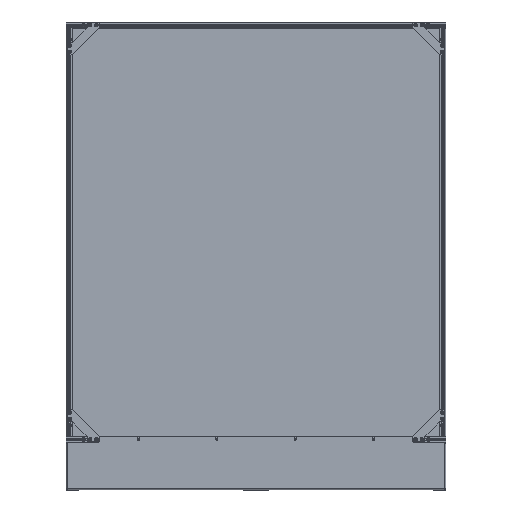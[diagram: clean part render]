
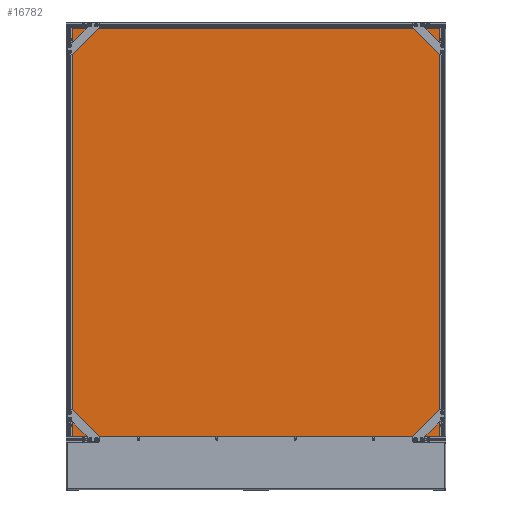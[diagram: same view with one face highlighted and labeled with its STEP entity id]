
A CAD part, top view. The second image highlights one B-rep face of the part: STEP entity #16782.
In plain terms, the highlighted planar face has unit normal (0, 0, 1) as drawn and (0, 1, 0) by its records, which use the part's own axes.
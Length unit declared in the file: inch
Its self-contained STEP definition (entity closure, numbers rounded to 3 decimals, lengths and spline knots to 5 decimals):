
#304 = VERTEX_POINT ( 'NONE', #5226 ) ;
#1250 = ORIENTED_EDGE ( 'NONE', *, *, #13436, .T. ) ;
#1777 = CARTESIAN_POINT ( 'NONE',  ( 25.59055, 0.125, -23.00787 ) ) ;
#3066 = LINE ( 'NONE', #12584, #19802 ) ;
#3110 = PLANE ( 'NONE',  #11621 ) ;
#3220 = LINE ( 'NONE', #3352, #20749 ) ;
#3352 = CARTESIAN_POINT ( 'NONE',  ( -25.59055, 0.125, -23.00787 ) ) ;
#3405 = DIRECTION ( 'NONE',  ( 0., 0., -1. ) ) ;
#5226 = CARTESIAN_POINT ( 'NONE',  ( 25.59055, 0.125, -23.00787 ) ) ;
#5653 = LINE ( 'NONE', #1777, #14875 ) ;
#6246 = ORIENTED_EDGE ( 'NONE', *, *, #20316, .T. ) ;
#6387 = DIRECTION ( 'NONE',  ( 0., 0., 1. ) ) ;
#6946 = VERTEX_POINT ( 'NONE', #18268 ) ;
#7998 = CARTESIAN_POINT ( 'NONE',  ( -25.59055, 0.125, -23.00787 ) ) ;
#8082 = CARTESIAN_POINT ( 'NONE',  ( -25.59055, 0.125, -23.00787 ) ) ;
#10173 = EDGE_LOOP ( 'NONE', ( #12027, #1250, #14325, #6246 ) ) ;
#10900 = VERTEX_POINT ( 'NONE', #8082 ) ;
#11110 = DIRECTION ( 'NONE',  ( -1., 0., 0. ) ) ;
#11621 = AXIS2_PLACEMENT_3D ( 'NONE', #14498, #16132, #6387 ) ;
#12027 = ORIENTED_EDGE ( 'NONE', *, *, #17428, .T. ) ;
#12584 = CARTESIAN_POINT ( 'NONE',  ( -25.59055, 0.125, 23.00787 ) ) ;
#13436 = EDGE_CURVE ( 'NONE', #17921, #6946, #3066, .T. ) ;
#13778 = EDGE_CURVE ( 'NONE', #6946, #304, #5653, .T. ) ;
#14325 = ORIENTED_EDGE ( 'NONE', *, *, #13778, .T. ) ;
#14498 = CARTESIAN_POINT ( 'NONE',  ( -25.59055, 0.125, 23.00787 ) ) ;
#14875 = VECTOR ( 'NONE', #3405, 39.37008 ) ;
#16132 = DIRECTION ( 'NONE',  ( 0., 1., 0. ) ) ;
#16246 = FACE_OUTER_BOUND ( 'NONE', #10173, .T. ) ;
#16358 = DIRECTION ( 'NONE',  ( 0., 0., 1. ) ) ;
#16782 = ADVANCED_FACE ( 'NONE', ( #16246 ), #3110, .T. ) ;
#17428 = EDGE_CURVE ( 'NONE', #10900, #17921, #3220, .T. ) ;
#17921 = VERTEX_POINT ( 'NONE', #20581 ) ;
#18268 = CARTESIAN_POINT ( 'NONE',  ( 25.59055, 0.125, 23.00787 ) ) ;
#18341 = VECTOR ( 'NONE', #11110, 39.37008 ) ;
#18897 = DIRECTION ( 'NONE',  ( 1., 0., 0. ) ) ;
#19802 = VECTOR ( 'NONE', #18897, 39.37008 ) ;
#20316 = EDGE_CURVE ( 'NONE', #304, #10900, #20391, .T. ) ;
#20391 = LINE ( 'NONE', #7998, #18341 ) ;
#20581 = CARTESIAN_POINT ( 'NONE',  ( -25.59055, 0.125, 23.00787 ) ) ;
#20749 = VECTOR ( 'NONE', #16358, 39.37008 ) ;
